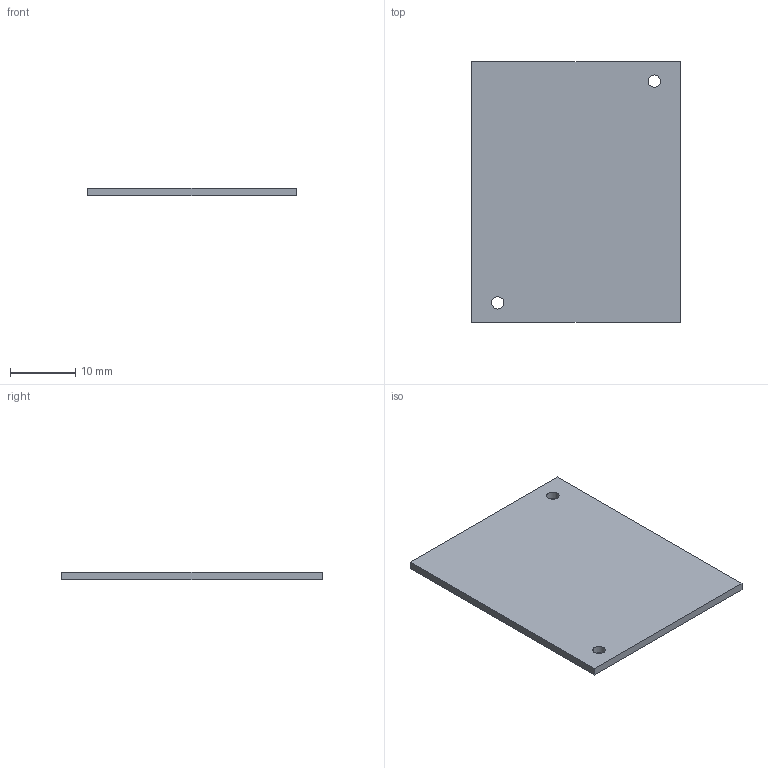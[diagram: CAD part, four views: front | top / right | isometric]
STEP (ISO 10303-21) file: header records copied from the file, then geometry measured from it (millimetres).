
FILE_DESCRIPTION(('Open CASCADE Model'),'2;1');
FILE_NAME('fixed_cover','2026-11-19T17:25:15',('Author'),('Open CASCADE' ),'Open CASCADE STEP processor 7.8','build123d','Unknown');
FILE_SCHEMA(('AUTOMOTIVE_DESIGN { 1 0 10303 214 1 1 1 1 }'));
Length unit declared in the file: millimetre
Products named in the file (1): fixed_cover
Bounding box: 32 x 40 x 1.2 mm (x, y, z)
Volume: 1529.2 mm3; surface area: 2735.8 mm2
Topology: 1 solids, 1 shells, 8 faces, 18 edges, 12 vertices
Faces by surface type: plane 6, cylinder 2
Full cylindrical faces by diameter (mm): 1.9 x2
Entity records: 487 total; most frequent: DIRECTION 76, CARTESIAN_POINT 75, LINE 46, VECTOR 46, ORIENTED_EDGE 36, PCURVE 36, DEFINITIONAL_REPRESENTATION 36, EDGE_CURVE 18
